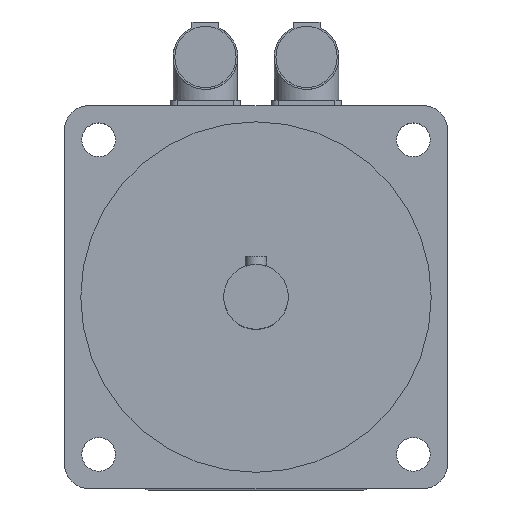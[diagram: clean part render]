
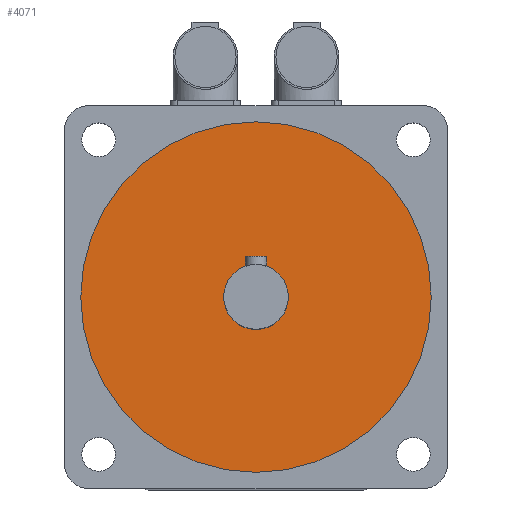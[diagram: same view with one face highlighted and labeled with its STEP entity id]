
A CAD part, top view. The second image highlights one B-rep face of the part: STEP entity #4071.
In plain terms, the highlighted planar face has unit normal (0, 0, 1).
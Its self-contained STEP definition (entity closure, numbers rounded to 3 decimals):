
#28=FACE_BOUND('',#533,.T.);
#79=PLANE('',#4432);
#278=FACE_OUTER_BOUND('',#532,.T.);
#532=EDGE_LOOP('',(#2985));
#533=EDGE_LOOP('',(#2986));
#1517=CIRCLE('',#4427,12.);
#1518=CIRCLE('',#4430,65.);
#1774=VERTEX_POINT('',#6532);
#1775=VERTEX_POINT('',#6536);
#2232=EDGE_CURVE('',#1774,#1774,#1517,.T.);
#2233=EDGE_CURVE('',#1775,#1775,#1518,.T.);
#2985=ORIENTED_EDGE('',*,*,#2233,.T.);
#2986=ORIENTED_EDGE('',*,*,#2232,.T.);
#4071=ADVANCED_FACE('',(#278,#28),#79,.F.);
#4427=AXIS2_PLACEMENT_3D('',#6533,#5205,#5206);
#4430=AXIS2_PLACEMENT_3D('',#6537,#5211,#5212);
#4432=AXIS2_PLACEMENT_3D('',#6540,#5215,#5216);
#5205=DIRECTION('center_axis',(0.,0.,
-1.));
#5206=DIRECTION('ref_axis',(-1.,0.,0.));
#5211=DIRECTION('center_axis',(0.,0.,
1.));
#5212=DIRECTION('ref_axis',(-1.,0.,0.));
#5215=DIRECTION('center_axis',(0.,0.,
-1.));
#5216=DIRECTION('ref_axis',(-1.,0.,0.));
#6532=CARTESIAN_POINT('',(12.,0.,296.5));
#6533=CARTESIAN_POINT('Origin',(0.,0.,
296.5));
#6536=CARTESIAN_POINT('',(65.,0.,296.5));
#6537=CARTESIAN_POINT('Origin',(0.,0.,
296.5));
#6540=CARTESIAN_POINT('Origin',(0.,0.,
296.5));
